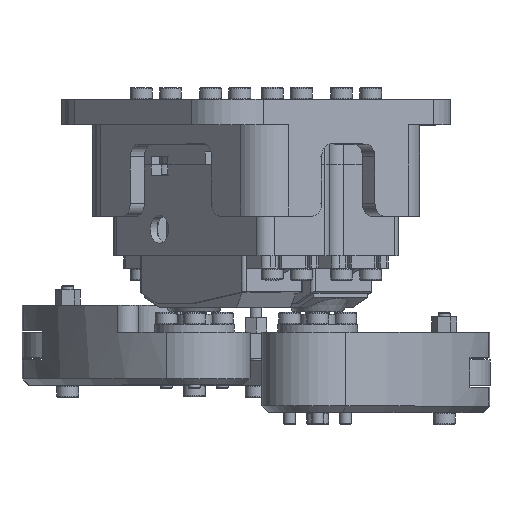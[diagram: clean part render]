
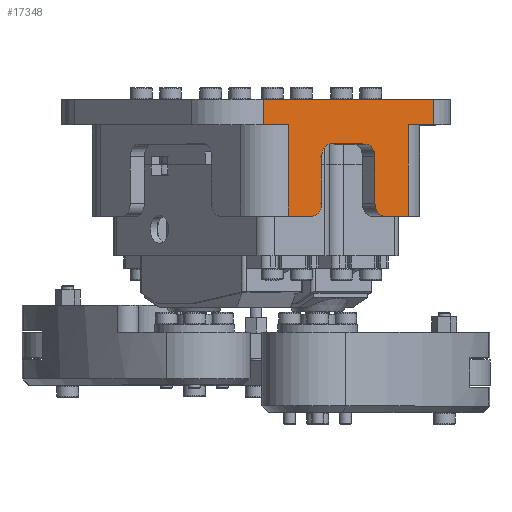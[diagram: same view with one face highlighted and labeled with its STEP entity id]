
A CAD part, top view. The second image highlights one B-rep face of the part: STEP entity #17348.
In plain terms, the highlighted planar face has unit normal (0.662, 0, 0.75).
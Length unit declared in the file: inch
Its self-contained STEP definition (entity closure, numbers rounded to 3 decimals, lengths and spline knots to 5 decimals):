
#1332=PLANE('',#19526);
#2328=FACE_OUTER_BOUND('',#3565,.T.);
#3565=EDGE_LOOP('',(#15907,#15908,#15909,#15910,#15911,#15912,#15913,#15914,
#15915,#15916,#15917,#15918,#15919,#15920,#15921,#15922));
#5047=LINE('',#29596,#6591);
#5094=LINE('',#29738,#6638);
#5104=LINE('',#29766,#6648);
#5123=LINE('',#29818,#6667);
#5125=LINE('',#29824,#6669);
#5126=LINE('',#29827,#6670);
#5127=LINE('',#29829,#6671);
#5128=LINE('',#29831,#6672);
#5129=LINE('',#29832,#6673);
#5130=LINE('',#29834,#6674);
#5131=LINE('',#29836,#6675);
#5132=LINE('',#29837,#6676);
#6591=VECTOR('',#24560,0.3937);
#6638=VECTOR('',#24677,0.3937);
#6648=VECTOR('',#24703,0.3937);
#6667=VECTOR('',#24748,0.3937);
#6669=VECTOR('',#24754,0.3937);
#6670=VECTOR('',#24757,0.3937);
#6671=VECTOR('',#24758,0.3937);
#6672=VECTOR('',#24759,0.3937);
#6673=VECTOR('',#24760,0.3937);
#6674=VECTOR('',#24761,0.3937);
#6675=VECTOR('',#24762,0.3937);
#6676=VECTOR('',#24763,0.3937);
#7473=CIRCLE('',#19510,0.125);
#7481=CIRCLE('',#19524,0.125);
#7482=CIRCLE('',#19527,0.125);
#7483=CIRCLE('',#19528,0.125);
#8944=VERTEX_POINT('',#29593);
#8945=VERTEX_POINT('',#29595);
#9004=VERTEX_POINT('',#29735);
#9005=VERTEX_POINT('',#29737);
#9012=VERTEX_POINT('',#29756);
#9015=VERTEX_POINT('',#29764);
#9033=VERTEX_POINT('',#29811);
#9034=VERTEX_POINT('',#29813);
#9035=VERTEX_POINT('',#29817);
#9036=VERTEX_POINT('',#29821);
#9037=VERTEX_POINT('',#29823);
#9038=VERTEX_POINT('',#29826);
#9039=VERTEX_POINT('',#29828);
#9040=VERTEX_POINT('',#29830);
#9041=VERTEX_POINT('',#29833);
#9042=VERTEX_POINT('',#29835);
#11238=EDGE_CURVE('',#8944,#8945,#5047,.T.);
#11309=EDGE_CURVE('',#9004,#9005,#5094,.T.);
#11319=EDGE_CURVE('',#9012,#9004,#7473,.T.);
#11324=EDGE_CURVE('',#9012,#9015,#5104,.T.);
#11348=EDGE_CURVE('',#9033,#9034,#7481,.T.);
#11350=EDGE_CURVE('',#9035,#9034,#5123,.T.);
#11352=EDGE_CURVE('',#9036,#9015,#7482,.T.);
#11353=EDGE_CURVE('',#9036,#9037,#5125,.T.);
#11354=EDGE_CURVE('',#9035,#9037,#7483,.T.);
#11355=EDGE_CURVE('',#9038,#9033,#5126,.T.);
#11356=EDGE_CURVE('',#9039,#9038,#5127,.T.);
#11357=EDGE_CURVE('',#9039,#9040,#5128,.T.);
#11358=EDGE_CURVE('',#8945,#9040,#5129,.T.);
#11359=EDGE_CURVE('',#9041,#8944,#5130,.T.);
#11360=EDGE_CURVE('',#9041,#9042,#5131,.T.);
#11361=EDGE_CURVE('',#9005,#9042,#5132,.T.);
#15907=ORIENTED_EDGE('',*,*,#11319,.F.);
#15908=ORIENTED_EDGE('',*,*,#11324,.T.);
#15909=ORIENTED_EDGE('',*,*,#11352,.F.);
#15910=ORIENTED_EDGE('',*,*,#11353,.T.);
#15911=ORIENTED_EDGE('',*,*,#11354,.F.);
#15912=ORIENTED_EDGE('',*,*,#11350,.T.);
#15913=ORIENTED_EDGE('',*,*,#11348,.F.);
#15914=ORIENTED_EDGE('',*,*,#11355,.F.);
#15915=ORIENTED_EDGE('',*,*,#11356,.F.);
#15916=ORIENTED_EDGE('',*,*,#11357,.T.);
#15917=ORIENTED_EDGE('',*,*,#11358,.F.);
#15918=ORIENTED_EDGE('',*,*,#11238,.F.);
#15919=ORIENTED_EDGE('',*,*,#11359,.F.);
#15920=ORIENTED_EDGE('',*,*,#11360,.T.);
#15921=ORIENTED_EDGE('',*,*,#11361,.F.);
#15922=ORIENTED_EDGE('',*,*,#11309,.F.);
#17348=ADVANCED_FACE('',(#2328),#1332,.T.);
#19510=AXIS2_PLACEMENT_3D('',#29757,#24694,#24695);
#19524=AXIS2_PLACEMENT_3D('',#29814,#24743,#24744);
#19526=AXIS2_PLACEMENT_3D('',#29820,#24750,#24751);
#19527=AXIS2_PLACEMENT_3D('',#29822,#24752,#24753);
#19528=AXIS2_PLACEMENT_3D('',#29825,#24755,#24756);
#24560=DIRECTION('',(0.75,0.,-0.662));
#24677=DIRECTION('',(-0.75,0.,0.662));
#24694=DIRECTION('center_axis',(-0.662,0.,
-0.75));
#24695=DIRECTION('ref_axis',(0.53,-0.707,-0.468));
#24703=DIRECTION('',(0.,1.,0.));
#24743=DIRECTION('center_axis',(-0.662,0.,
-0.75));
#24744=DIRECTION('ref_axis',(-0.53,-0.707,0.468));
#24748=DIRECTION('',(0.,-1.,0.));
#24750=DIRECTION('center_axis',(0.662,0.,
0.75));
#24751=DIRECTION('ref_axis',(-0.75,0.,0.662));
#24752=DIRECTION('center_axis',(0.662,0.,
0.75));
#24753=DIRECTION('ref_axis',(-0.53,0.707,0.468));
#24754=DIRECTION('',(0.75,0.,-0.662));
#24755=DIRECTION('center_axis',(0.662,0.,
0.75));
#24756=DIRECTION('ref_axis',(0.53,0.707,-0.468));
#24757=DIRECTION('',(-0.75,0.,0.662));
#24758=DIRECTION('',(0.,-1.,0.));
#24759=DIRECTION('',(0.75,0.,-0.662));
#24760=DIRECTION('',(0.,-1.,0.));
#24761=DIRECTION('',(0.,1.,0.));
#24762=DIRECTION('',(0.75,0.,-0.662));
#24763=DIRECTION('',(0.,1.,0.));
#29593=CARTESIAN_POINT('',(-0.05555,1.22867,4.7597));
#29595=CARTESIAN_POINT('',(1.62593,1.22867,3.27535));
#29596=CARTESIAN_POINT('',(-0.43039,1.22867,5.0906));
#29735=CARTESIAN_POINT('',(0.42831,0.07595,4.33256));
#29737=CARTESIAN_POINT('',(0.19348,0.07595,4.53986));
#29738=CARTESIAN_POINT('',(1.20556,0.07595,3.64644));
#29756=CARTESIAN_POINT('',(0.52202,0.20095,4.24984));
#29757=CARTESIAN_POINT('Origin',(0.42831,0.20095,4.33256));
#29764=CARTESIAN_POINT('',(0.52202,0.66366,4.24984));
#29766=CARTESIAN_POINT('',(0.52202,0.33167,4.24984));
#29811=CARTESIAN_POINT('',(1.14206,0.07595,3.70249));
#29813=CARTESIAN_POINT('',(1.04835,0.20095,3.78521));
#29814=CARTESIAN_POINT('Origin',(1.14206,0.20095,3.70249));
#29817=CARTESIAN_POINT('',(1.04835,0.66366,3.78521));
#29818=CARTESIAN_POINT('',(1.04835,0.88366,3.78521));
#29820=CARTESIAN_POINT('Origin',(1.62593,0.97867,3.27535));
#29821=CARTESIAN_POINT('',(0.61573,0.78866,4.16711));
#29822=CARTESIAN_POINT('Origin',(0.61573,0.66366,4.16711));
#29823=CARTESIAN_POINT('',(0.95464,0.78866,3.86794));
#29824=CARTESIAN_POINT('',(1.07397,0.78866,3.76259));
#29825=CARTESIAN_POINT('Origin',(0.95464,0.66366,3.86794));
#29826=CARTESIAN_POINT('',(1.37689,0.07595,3.49519));
#29827=CARTESIAN_POINT('',(1.20556,0.07595,3.64644));
#29828=CARTESIAN_POINT('',(1.37689,0.97867,3.49519));
#29829=CARTESIAN_POINT('',(1.37689,0.97867,3.49519));
#29830=CARTESIAN_POINT('',(1.62593,0.97867,3.27535));
#29831=CARTESIAN_POINT('',(-0.43039,0.97867,5.0906));
#29832=CARTESIAN_POINT('',(1.62593,0.97867,3.27535));
#29833=CARTESIAN_POINT('',(-0.05555,0.97867,4.7597));
#29834=CARTESIAN_POINT('',(-0.05555,0.97867,4.7597));
#29835=CARTESIAN_POINT('',(0.19348,0.97867,4.53986));
#29836=CARTESIAN_POINT('',(-0.43039,0.97867,5.0906));
#29837=CARTESIAN_POINT('',(0.19348,0.97867,4.53986));
